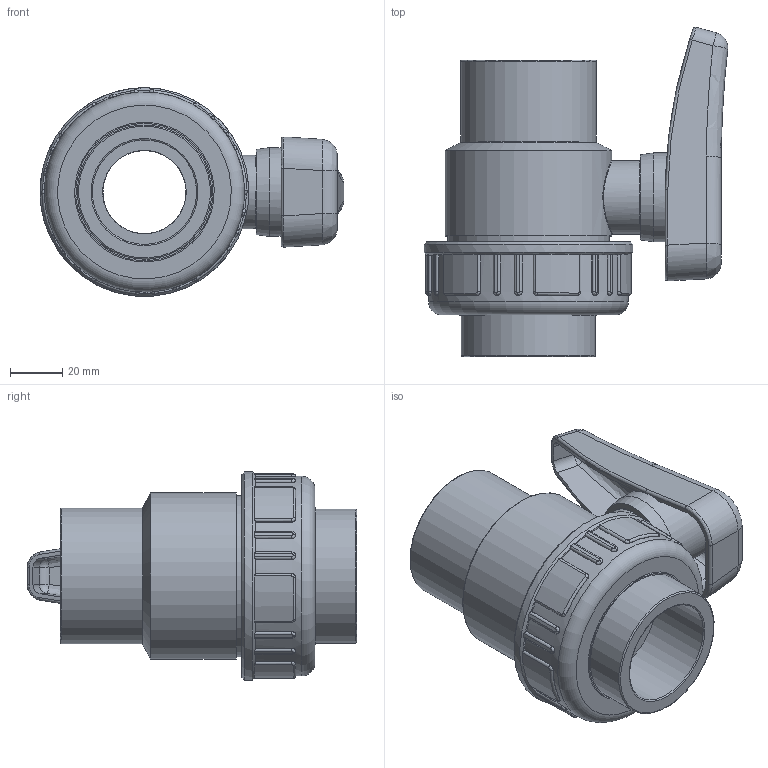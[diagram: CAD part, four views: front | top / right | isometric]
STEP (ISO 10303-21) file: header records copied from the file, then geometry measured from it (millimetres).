
FILE_DESCRIPTION(/* description */ (''),/* implementation_level */ '2;1');
FILE_NAME(/* name */ 'C:\Users\POLYPIPE\Desktop\DATASET INVENTOR\LIBRERIA EFFAST\3D_VALVOLE\3D_VALVOLE A SFERA\3D_SV\3D_BDRSVD\3D_BDRSVD0400.stp',/* time_stamp */ '2018-01-23T16:34:25+01:00',/* author */ ('POLYPIPE'),/* organization */ (''),/* preprocessor_version */ 'ST-DEVELOPER v16.1',/* originating_system */ 'Autodesk Inventor 2016',/* authorisation */ '');
FILE_SCHEMA (('CONFIG_CONTROL_DESIGN'));
Length unit declared in the file: centimetre
Products named in the file (1): 3D_BDRSVD0400
Bounding box: 116.33 x 126.15 x 79.95 mm (x, y, z)
Volume: 263605.4 mm3; surface area: 75880.3 mm2
Topology: 2 solids, 2 shells, 352 faces, 893 edges, 548 vertices
Faces by surface type: cylinder 116, plane 104, bspline 95, torus 22, sphere 11, cone 4
Full cylindrical faces by diameter (mm): 18.1 x1, 28.1 x1, 31.8 x1, 32 x1, 34 x1, 40 x2, 51.5 x1, 52 x1, 52.6 x1, 53.5 x1, 59.7 x1, 61.8 x1, 63.7 x1, 65.6 x1, 76.6 x1, 80 x1
Entity records: 33554 total; most frequent: CARTESIAN_POINT 25260, ORIENTED_EDGE 1712, DIRECTION 1515, EDGE_CURVE 856, AXIS2_PLACEMENT_3D 600, VERTEX_POINT 541, EDGE_LOOP 399, STYLED_ITEM 354
